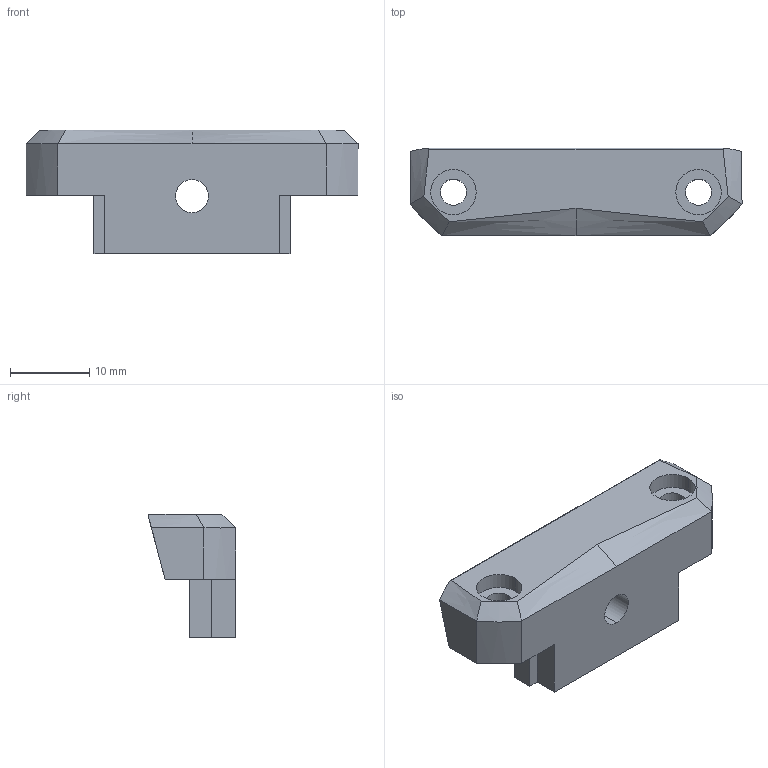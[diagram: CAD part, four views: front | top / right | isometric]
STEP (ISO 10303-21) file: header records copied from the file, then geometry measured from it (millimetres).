
FILE_DESCRIPTION (( 'STEP AP214' ), '1' );
FILE_NAME ('LGX Holder V1.0.STEP', '2021-04-19T13:34:15', ( '' ), ( '' ), 'SwSTEP 2.0', 'SolidWorks 2020', '' );
FILE_SCHEMA (( 'AUTOMOTIVE_DESIGN' ));
Length unit declared in the file: millimetre
Products named in the file (1): LGX Holder V1.0
Bounding box: 42 x 11.08 x 15.65 mm (x, y, z)
Volume: 3868.6 mm3; surface area: 2265.8 mm2
Topology: 1 solids, 1 shells, 41 faces, 115 edges, 77 vertices
Faces by surface type: plane 19, cylinder 16, bspline 6
Entity records: 1607 total; most frequent: CARTESIAN_POINT 554, ORIENTED_EDGE 230, DIRECTION 184, EDGE_CURVE 115, VERTEX_POINT 77, AXIS2_PLACEMENT_3D 64, VECTOR 56, LINE 56
